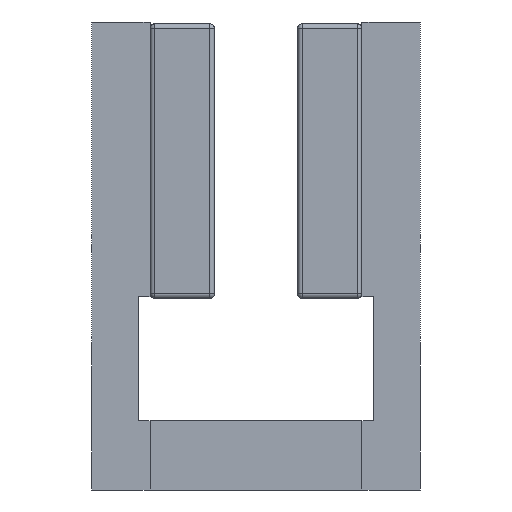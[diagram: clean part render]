
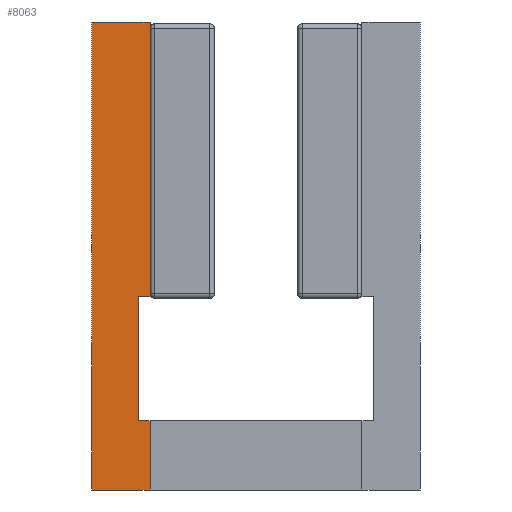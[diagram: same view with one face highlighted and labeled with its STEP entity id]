
A CAD part, front view. The second image highlights one B-rep face of the part: STEP entity #8063.
In plain terms, the highlighted planar face has unit normal (0, -1, 0).
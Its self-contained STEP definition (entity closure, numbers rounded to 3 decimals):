
#38 = AXIS2_PLACEMENT_3D ( 'NONE', #5117, #870, #6140 ) ;
#202 = VERTEX_POINT ( 'NONE', #238 ) ;
#238 = CARTESIAN_POINT ( 'NONE',  ( -11.052, -141.89, 11.223 ) ) ;
#252 = ORIENTED_EDGE ( 'NONE', *, *, #5333, .F. ) ;
#392 = VECTOR ( 'NONE', #4694, 1000. ) ;
#870 = DIRECTION ( 'NONE',  ( 0., -1., 0. ) ) ;
#921 = LINE ( 'NONE', #7048, #7569 ) ;
#1084 = EDGE_CURVE ( 'Defeatured_0_5+Defeatured_0_0+Defeatured_0_1+Defeatured_0_7', #9377, #3080, #3192, .T. ) ;
#1116 = CARTESIAN_POINT ( 'NONE',  ( -4.702, -141.89, 32.223 ) ) ;
#1194 = EDGE_CURVE ( 'Defeatured_0_3+Defeatured_0_5+Defeatured_0_2+Defeatured_0_46', #5893, #4134, #6680, .T. ) ;
#1249 = CARTESIAN_POINT ( 'NONE',  ( -4.702, -141.89, 11.223 ) ) ;
#1347 = VECTOR ( 'NONE', #10009, 1000. ) ;
#1410 = ORIENTED_EDGE ( 'NONE', *, *, #1084, .T. ) ;
#1417 = CARTESIAN_POINT ( 'NONE',  ( -4.702, -141.89, 62.023 ) ) ;
#1734 = DIRECTION ( 'NONE',  ( 1., 0., 0. ) ) ;
#2102 = CARTESIAN_POINT ( 'NONE',  ( -4.702, -141.89, 32.223 ) ) ;
#2351 = ORIENTED_EDGE ( 'NONE', *, *, #10630, .T. ) ;
#2560 = ORIENTED_EDGE ( 'NONE', *, *, #1194, .F. ) ;
#2714 = PLANE ( 'NONE',  #38 ) ;
#3035 = DIRECTION ( 'NONE',  ( 0., 0., 1. ) ) ;
#3076 = CARTESIAN_POINT ( 'NONE',  ( -11.052, -141.89, 62.023 ) ) ;
#3080 = VERTEX_POINT ( 'NONE', #5426 ) ;
#3183 = CARTESIAN_POINT ( 'NONE',  ( -4.702, -141.89, 11.223 ) ) ;
#3192 = LINE ( 'NONE', #1249, #9081 ) ;
#3347 = VERTEX_POINT ( 'NONE', #5870 ) ;
#3368 = LINE ( 'NONE', #1417, #4192 ) ;
#3743 = ORIENTED_EDGE ( 'NONE', *, *, #10679, .T. ) ;
#3986 = DIRECTION ( 'NONE',  ( -1., 0., 0. ) ) ;
#4043 = CARTESIAN_POINT ( 'NONE',  ( -11.052, -141.89, 62.023 ) ) ;
#4134 = VERTEX_POINT ( 'NONE', #9672 ) ;
#4192 = VECTOR ( 'NONE', #3986, 1000. ) ;
#4272 = FACE_OUTER_BOUND ( 'NONE', #8544, .T. ) ;
#4324 = DIRECTION ( 'NONE',  ( 1., 0., 0. ) ) ;
#4413 = VECTOR ( 'NONE', #1734, 1000. ) ;
#4487 = VECTOR ( 'NONE', #9245, 1000. ) ;
#4694 = DIRECTION ( 'NONE',  ( -1., 0., 0. ) ) ;
#4943 = ORIENTED_EDGE ( 'NONE', *, *, #6823, .T. ) ;
#5117 = CARTESIAN_POINT ( 'NONE',  ( -4.702, -141.89, 11.223 ) ) ;
#5333 = EDGE_CURVE ( 'Defeatured_0_2+Defeatured_0_5+Defeatured_0_1+Defeatured_0_3', #10794, #5893, #10638, .T. ) ;
#5426 = CARTESIAN_POINT ( 'NONE',  ( -4.702, -141.89, 62.023 ) ) ;
#5870 = CARTESIAN_POINT ( 'NONE',  ( -4.702, -141.89, 11.223 ) ) ;
#5893 = VERTEX_POINT ( 'NONE', #9815 ) ;
#5994 = ORIENTED_EDGE ( 'NONE', *, *, #7986, .T. ) ;
#6140 = DIRECTION ( 'NONE',  ( 0., 0., 1. ) ) ;
#6362 = DIRECTION ( 'NONE',  ( 0., 0., -1. ) ) ;
#6452 = LINE ( 'NONE', #1116, #392 ) ;
#6680 = LINE ( 'NONE', #7583, #4413 ) ;
#6823 = EDGE_CURVE ( 'Defeatured_0_5+Defeatured_0_43+Defeatured_0_8+Defeatured_0_3', #3347, #4134, #8356, .T. ) ;
#7048 = CARTESIAN_POINT ( 'NONE',  ( -11.052, -141.89, 11.223 ) ) ;
#7111 = EDGE_CURVE ( 'Defeatured_0_1+Defeatured_0_5+Defeatured_0_0+Defeatured_0_2', #9377, #10794, #6452, .T. ) ;
#7569 = VECTOR ( 'NONE', #4324, 1000. ) ;
#7583 = CARTESIAN_POINT ( 'NONE',  ( -4.702, -141.89, 18.723 ) ) ;
#7986 = EDGE_CURVE ( 'Defeatured_0_5+Defeatured_0_8+Defeatured_0_6+Defeatured_0_43', #202, #3347, #921, .T. ) ;
#8063 = ADVANCED_FACE ( 'Defeatured_0_5', ( #4272 ), #2714, .T. ) ;
#8356 = LINE ( 'NONE', #3183, #4487 ) ;
#8543 = CARTESIAN_POINT ( 'NONE',  ( -6.002, -141.89, 32.223 ) ) ;
#8544 = EDGE_LOOP ( 'NONE', ( #2560, #252, #8942, #1410, #3743, #2351, #5994, #4943 ) ) ;
#8942 = ORIENTED_EDGE ( 'NONE', *, *, #7111, .F. ) ;
#9081 = VECTOR ( 'NONE', #3035, 1000. ) ;
#9207 = LINE ( 'NONE', #4043, #1347 ) ;
#9245 = DIRECTION ( 'NONE',  ( 0., 0., 1. ) ) ;
#9377 = VERTEX_POINT ( 'NONE', #2102 ) ;
#9672 = CARTESIAN_POINT ( 'NONE',  ( -4.702, -141.89, 18.723 ) ) ;
#9815 = CARTESIAN_POINT ( 'NONE',  ( -6.002, -141.89, 18.723 ) ) ;
#9848 = CARTESIAN_POINT ( 'NONE',  ( -6.002, -141.89, 18.723 ) ) ;
#9854 = VECTOR ( 'NONE', #6362, 1000. ) ;
#9896 = VERTEX_POINT ( 'NONE', #3076 ) ;
#10009 = DIRECTION ( 'NONE',  ( 0., 0., -1. ) ) ;
#10630 = EDGE_CURVE ( 'Defeatured_0_5+Defeatured_0_6+Defeatured_0_7+Defeatured_0_8', #9896, #202, #9207, .T. ) ;
#10638 = LINE ( 'NONE', #9848, #9854 ) ;
#10679 = EDGE_CURVE ( 'Defeatured_0_5+Defeatured_0_7+Defeatured_0_0+Defeatured_0_6', #3080, #9896, #3368, .T. ) ;
#10794 = VERTEX_POINT ( 'NONE', #8543 ) ;
